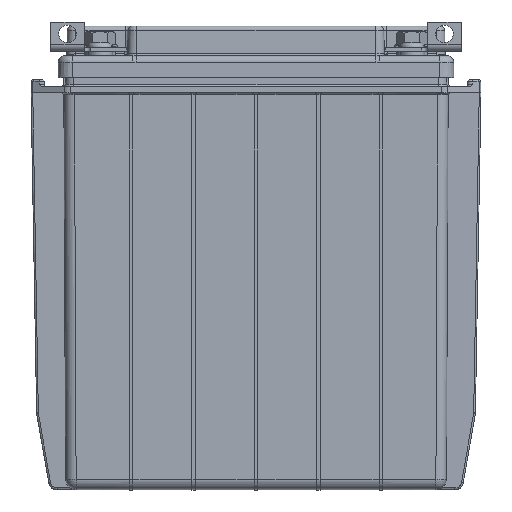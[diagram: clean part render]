
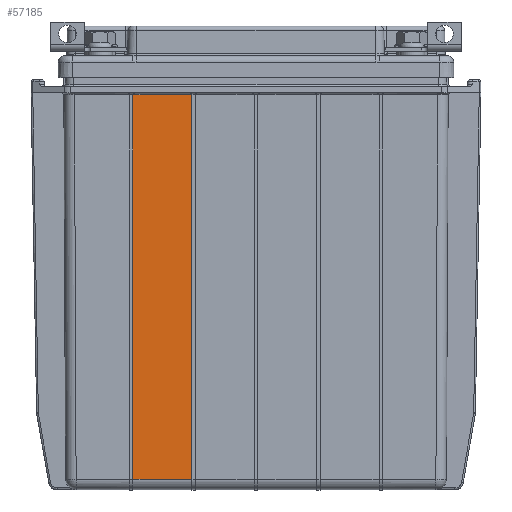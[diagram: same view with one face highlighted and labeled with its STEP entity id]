
A CAD part, top view. The second image highlights one B-rep face of the part: STEP entity #57185.
In plain terms, the highlighted planar face has unit normal (0, -0.005, 1).
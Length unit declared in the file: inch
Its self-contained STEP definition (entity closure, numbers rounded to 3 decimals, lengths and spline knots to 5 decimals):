
#134 = VERTEX_POINT ( 'NONE', #94421 ) ;
#812 = EDGE_LOOP ( 'NONE', ( #2999, #43032, #60107, #114345, #84675, #37082 ) ) ;
#2999 = ORIENTED_EDGE ( 'NONE', *, *, #119517, .F. ) ;
#5518 = DIRECTION ( 'NONE',  ( 0., -1., -0.005 ) ) ;
#5930 = CARTESIAN_POINT ( 'NONE',  ( -0.9462, -3.184, 1.7685 ) ) ;
#7817 = DIRECTION ( 'NONE',  ( 0., -1., -0.005 ) ) ;
#10124 = VECTOR ( 'NONE', #5518, 39.37008 ) ;
#11516 = LINE ( 'NONE', #119832, #101360 ) ;
#22760 = DIRECTION ( 'NONE',  ( 0., -1., -0.005 ) ) ;
#24910 = VECTOR ( 'NONE', #33999, 39.37008 ) ;
#30016 = DIRECTION ( 'NONE',  ( 0., -1., -0.005 ) ) ;
#32293 = CARTESIAN_POINT ( 'NONE',  ( -1.8168, -3.184, 1.7685 ) ) ;
#32822 = VERTEX_POINT ( 'NONE', #90670 ) ;
#33582 = LINE ( 'NONE', #72488, #10124 ) ;
#33999 = DIRECTION ( 'NONE',  ( 1., 0., 0. ) ) ;
#37082 = ORIENTED_EDGE ( 'NONE', *, *, #55539, .F. ) ;
#38497 = EDGE_CURVE ( 'NONE', #85633, #134, #33582, .T. ) ;
#38829 = EDGE_CURVE ( 'NONE', #78299, #85633, #53670, .T. ) ;
#39391 = VECTOR ( 'NONE', #22760, 39.37008 ) ;
#43032 = ORIENTED_EDGE ( 'NONE', *, *, #38829, .T. ) ;
#47972 = CARTESIAN_POINT ( 'NONE',  ( -1.8168, 2.63916, 1.79797 ) ) ;
#49654 = CARTESIAN_POINT ( 'NONE',  ( -2.81, -3.184, 1.7685 ) ) ;
#53129 = CARTESIAN_POINT ( 'NONE',  ( 2.81, -3.02879, 1.76929 ) ) ;
#53670 = LINE ( 'NONE', #74676, #122116 ) ;
#55539 = EDGE_CURVE ( 'NONE', #80043, #32822, #104647, .T. ) ;
#57185 = ADVANCED_FACE ( 'NONE', ( #87912 ), #59289, .T. ) ;
#59289 = PLANE ( 'NONE',  #67038 ) ;
#60107 = ORIENTED_EDGE ( 'NONE', *, *, #38497, .T. ) ;
#63289 = EDGE_CURVE ( 'NONE', #112543, #32822, #101513, .T. ) ;
#64752 = EDGE_CURVE ( 'NONE', #134, #112543, #120235, .T. ) ;
#66351 = DIRECTION ( 'NONE',  ( 0., -1., -0.005 ) ) ;
#67038 = AXIS2_PLACEMENT_3D ( 'NONE', #49654, #114739, #66351 ) ;
#72488 = CARTESIAN_POINT ( 'NONE',  ( -1.8168, -3.184, 1.7685 ) ) ;
#74676 = CARTESIAN_POINT ( 'NONE',  ( -1.8168, 2.63916, 1.79797 ) ) ;
#74843 = VECTOR ( 'NONE', #7817, 39.37008 ) ;
#76934 = CARTESIAN_POINT ( 'NONE',  ( -0.9462, 2.63916, 1.79797 ) ) ;
#78299 = VERTEX_POINT ( 'NONE', #76934 ) ;
#79121 = CARTESIAN_POINT ( 'NONE',  ( -0.9462, 2.639, 1.79797 ) ) ;
#80043 = VERTEX_POINT ( 'NONE', #79121 ) ;
#84218 = DIRECTION ( 'NONE',  ( -1., 0., 0. ) ) ;
#84675 = ORIENTED_EDGE ( 'NONE', *, *, #63289, .T. ) ;
#85633 = VERTEX_POINT ( 'NONE', #47972 ) ;
#87912 = FACE_OUTER_BOUND ( 'NONE', #812, .T. ) ;
#90670 = CARTESIAN_POINT ( 'NONE',  ( -0.9462, -3.02879, 1.76929 ) ) ;
#94421 = CARTESIAN_POINT ( 'NONE',  ( -1.8168, 2.639, 1.79797 ) ) ;
#101360 = VECTOR ( 'NONE', #30016, 39.37008 ) ;
#101513 = LINE ( 'NONE', #53129, #24910 ) ;
#104647 = LINE ( 'NONE', #5930, #74843 ) ;
#112543 = VERTEX_POINT ( 'NONE', #118573 ) ;
#114345 = ORIENTED_EDGE ( 'NONE', *, *, #64752, .T. ) ;
#114739 = DIRECTION ( 'NONE',  ( 0., -0.005, 1. ) ) ;
#118573 = CARTESIAN_POINT ( 'NONE',  ( -1.8168, -3.02879, 1.76929 ) ) ;
#119517 = EDGE_CURVE ( 'NONE', #78299, #80043, #11516, .T. ) ;
#119832 = CARTESIAN_POINT ( 'NONE',  ( -0.9462, -3.184, 1.7685 ) ) ;
#120235 = LINE ( 'NONE', #32293, #39391 ) ;
#122116 = VECTOR ( 'NONE', #84218, 39.37008 ) ;
